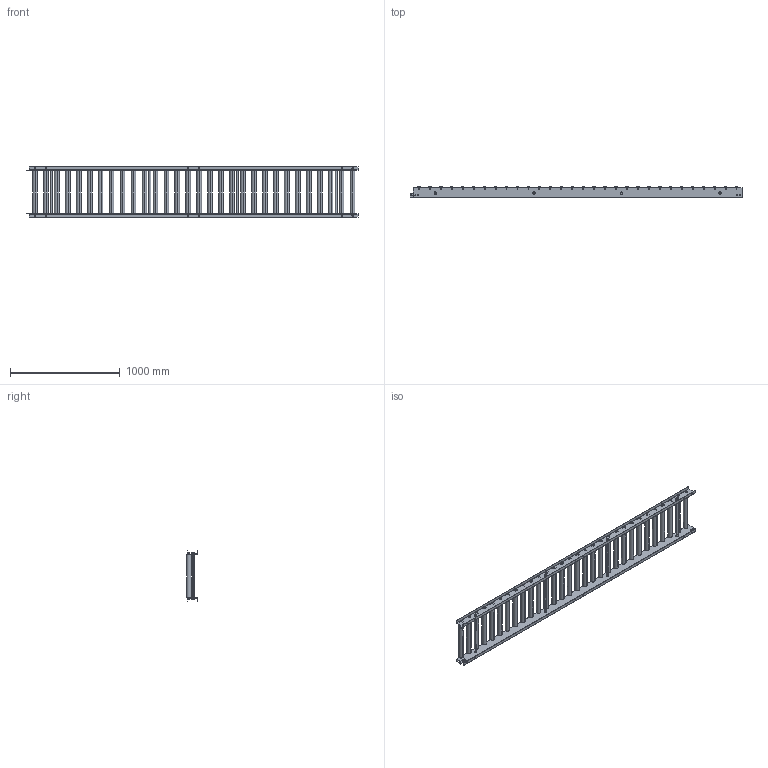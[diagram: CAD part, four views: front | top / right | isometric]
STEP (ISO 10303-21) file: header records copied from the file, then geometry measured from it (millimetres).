
FILE_DESCRIPTION (( 'STEP AP203' ), '1' );
FILE_NAME ('S-4214P.step', '2024-02-26T06:41:36', ( '' ), ( '' ), 'SwSTEP 2.0', 'SolidWorks 2023', '' );
FILE_SCHEMA (( 'CONFIG_CONTROL_DESIGN' ));
Length unit declared in the file: millimetre
Products named in the file (1): S-4214P
Bounding box: 3031.5 x 100.35 x 460 mm (x, y, z)
Volume: 18140457.1 mm3; surface area: 4894978.9 mm2
Topology: 84 solids, 84 shells, 1730 faces, 4282 edges, 2788 vertices
Faces by surface type: plane 952, cylinder 610, torus 120, cone 48
Entity records: 52781 total; most frequent: DIRECTION 9604, CARTESIAN_POINT 9473, ORIENTED_EDGE 8564, EDGE_CURVE 4282, AXIS2_PLACEMENT_3D 3719, VERTEX_POINT 2788, LINE 2166, VECTOR 2166
